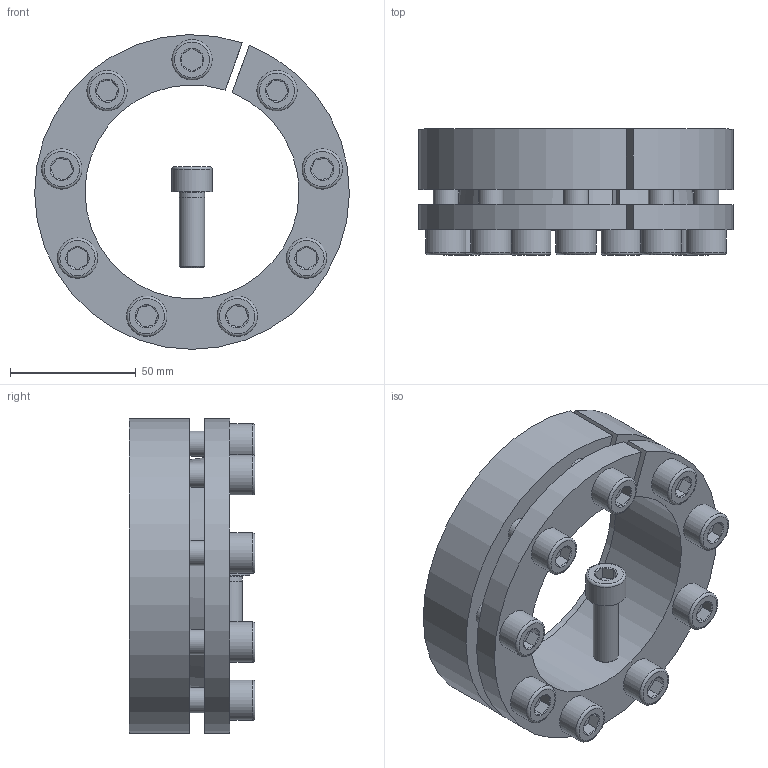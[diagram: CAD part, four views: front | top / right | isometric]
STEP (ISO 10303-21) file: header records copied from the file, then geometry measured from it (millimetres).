
FILE_DESCRIPTION( ( 'Unknown' ), '1' );
FILE_NAME( 'C:/Dokumente und Einstellungen/Sven/Desktop/homepage/cad - homepage/KBS13/KBS 13 - 85 x 125.stp', 'Unknown', ( 'Unknown' ), ( 'Unknown' ), 'XStep 1.0', 'Unknown', ' ' );
FILE_SCHEMA( ( 'automotive_design' ) );
Length unit declared in the file: millimetre
Products named in the file (3): Assem1; KBS 13 - 85 x 125; ISO EN DIN 4762 M10x30
Bounding box: 124.99 x 50 x 124.99 mm (x, y, z)
Volume: 449719.1 mm3; surface area: 135291.2 mm2
Topology: 12 solids, 12 shells, 310 faces, 634 edges, 388 vertices
Faces by surface type: plane 134, cylinder 82, cone 74, torus 20
Full cylindrical faces by diameter (mm): 9 x10, 10 x56, 16 x10
Entity records: 1848 total; most frequent: CARTESIAN_POINT 304, DIRECTION 286, ORIENTED_EDGE 202, AXIS2_PLACEMENT_3D 129, EDGE_LOOP 120, EDGE_CURVE 101, FACE_OUTER_BOUND 79, VERTEX_POINT 79
